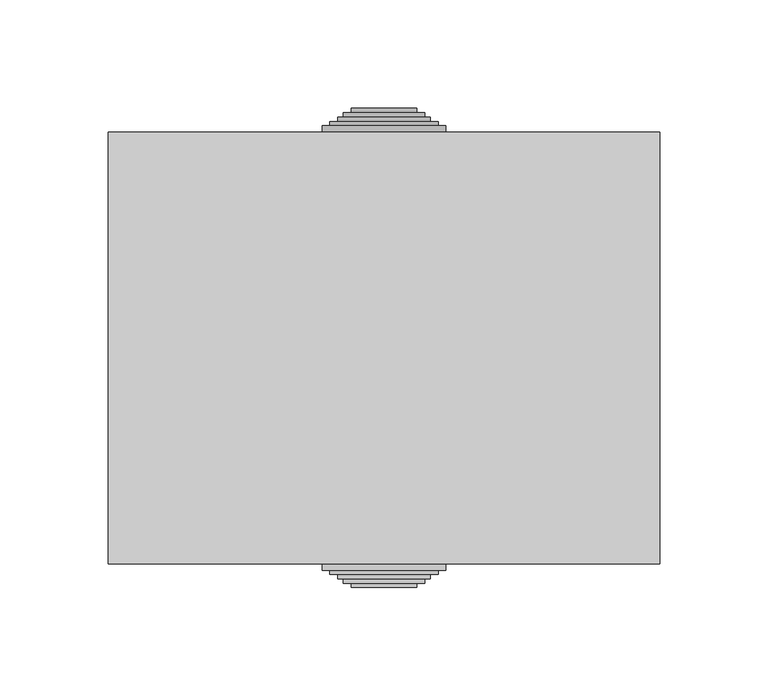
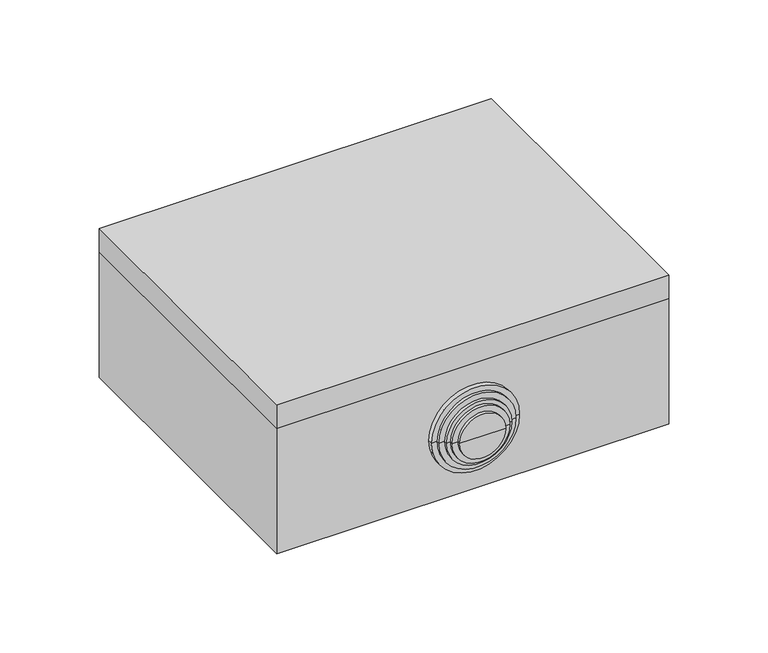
"""IFC4 building model written with IfcOpenShell, lengths in millimetres: cable carrier fitting geometry, КНС_КоробкаОтветвительнаяСКабельнымиВводами_2_IP55_DKC : с 2 кабельными вводами д.40мм, IP55, 240х190х90мм."""

from ifc_helpers import new_model, si_unit, frame, origin, place, context, project, spatial, polyline, circle_curve, faceted_brep, source, transform, mapped, element, save
from ifc_brep_helpers import plane_surface, cylinder_surface, revolved_surface, advanced_brep


def cable_carrier_fitting_5c50895f(model_context):
    return source(origin(), model_context, "Body", "SolidModel", [
        advanced_brep(
        [(25.0, -97.5, 43.0), (-25.0, -97.5, 43.0), (-28.5, -97.5, 43.0), (28.5, -97.5, 43.0), (25.0, -99.5, 43.0), (-25.0, -99.5, 43.0), (28.5, -99.5, 43.0), (-28.5, -99.5, 43.0), (28.5, -102.5, 43.0), (-28.5, -102.5, 43.0), (25.0, -102.5, 43.0), (-25.0, -102.5, 43.0), (25.0, -104.5, 43.0), (-25.0, -104.5, 43.0), (21.25, -104.5, 43.0), (-21.25, -104.5, 43.0), (21.25, -106.5, 43.0), (-21.25, -106.5, 43.0), (18.75, -106.5, 43.0), (-18.75, -106.5, 43.0), (18.75, -108.5, 43.0), (-18.75, -108.5, 43.0), (15.0, -108.5, 43.0), (-15.0, -108.5, 43.0), (15.0, -110.5, 43.0), (-15.0, -110.5, 43.0), (0.0, -110.5, 43.0), (25.0, -90.5, 43.0), (-25.0, -90.5, 43.0), (0.0, -90.5, 43.0), (28.5, -95.2491137, 43.0), (-28.5, -95.2491137, 43.0)],
        [
            (0, 1, circle_curve(frame((0.0, -97.5, 43.0), z_axis=(0.0, 1.0, 0.0), x_axis=(-1.0000000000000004, 0.0, 0.0)), 25.0)),
            (1, 2),
            (2, 3, circle_curve(frame((0.0, -97.5, 43.0), z_axis=(0.0, -1.0, 0.0), x_axis=(-1.0000000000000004, 0.0, 0.0)), 28.5)),
            (3, 0),
            (1, 0, circle_curve(frame((0.0, -97.5, 43.0), z_axis=(0.0, 1.0, 0.0), x_axis=(-1.0000000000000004, 0.0, 0.0)), 25.0)),
            (3, 2, circle_curve(frame((0.0, -97.5, 43.0), z_axis=(0.0, -1.0, 0.0), x_axis=(-1.0000000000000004, 0.0, 0.0)), 28.5)),
            (4, 5, circle_curve(frame((0.0, -99.5, 43.0), z_axis=(0.0, 1.0, 0.0), x_axis=(-1.0000000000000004, 0.0, 0.0)), 25.0)),
            (5, 1),
            (0, 4),
            (5, 4, circle_curve(frame((0.0, -99.5, 43.0), z_axis=(0.0, 1.0, 0.0), x_axis=(-1.0000000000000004, 0.0, 0.0)), 25.0)),
            (6, 7, circle_curve(frame((0.0, -99.5, 43.0), z_axis=(0.0, 1.0, 0.0), x_axis=(-1.0000000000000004, 0.0, 0.0)), 28.5)),
            (7, 5),
            (4, 6),
            (7, 6, circle_curve(frame((0.0, -99.5, 43.0), z_axis=(0.0, 1.0, 0.0), x_axis=(-1.0000000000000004, 0.0, 0.0)), 28.5)),
            (8, 9, circle_curve(frame((0.0, -102.5, 43.0), z_axis=(0.0, 1.0, 0.0), x_axis=(-1.0000000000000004, 0.0, 0.0)), 28.5)),
            (9, 7),
            (6, 8),
            (9, 8, circle_curve(frame((0.0, -102.5, 43.0), z_axis=(0.0, 1.0, 0.0), x_axis=(-1.0000000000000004, 0.0, 0.0)), 28.5)),
            (10, 11, circle_curve(frame((0.0, -102.5, 43.0), z_axis=(0.0, 1.0, 0.0), x_axis=(-1.0000000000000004, 0.0, 0.0)), 25.0)),
            (11, 9),
            (8, 10),
            (11, 10, circle_curve(frame((0.0, -102.5, 43.0), z_axis=(0.0, 1.0, 0.0), x_axis=(-1.0000000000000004, 0.0, 0.0)), 25.0)),
            (12, 13, circle_curve(frame((0.0, -104.5, 43.0), z_axis=(0.0, 1.0, 0.0), x_axis=(-1.0000000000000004, 0.0, 0.0)), 25.0)),
            (13, 11),
            (10, 12),
            (13, 12, circle_curve(frame((0.0, -104.5, 43.0), z_axis=(0.0, 1.0, 0.0), x_axis=(-1.0000000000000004, 0.0, 0.0)), 25.0)),
            (14, 15, circle_curve(frame((0.0, -104.5, 43.0), z_axis=(0.0, 1.0, 0.0), x_axis=(-1.0000000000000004, 0.0, 0.0)), 21.25)),
            (15, 13),
            (12, 14),
            (15, 14, circle_curve(frame((0.0, -104.5, 43.0), z_axis=(0.0, 1.0, 0.0), x_axis=(-1.0000000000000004, 0.0, 0.0)), 21.25)),
            (16, 17, circle_curve(frame((0.0, -106.5, 43.0), z_axis=(0.0, 1.0, 0.0), x_axis=(-1.0000000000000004, 0.0, 0.0)), 21.25)),
            (17, 15),
            (14, 16),
            (17, 16, circle_curve(frame((0.0, -106.5, 43.0), z_axis=(0.0, 1.0, 0.0), x_axis=(-1.0000000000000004, 0.0, 0.0)), 21.25)),
            (18, 19, circle_curve(frame((0.0, -106.5, 43.0), z_axis=(0.0, 1.0, 0.0), x_axis=(-1.0000000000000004, 0.0, 0.0)), 18.75)),
            (19, 17),
            (16, 18),
            (19, 18, circle_curve(frame((0.0, -106.5, 43.0), z_axis=(0.0, 1.0, 0.0), x_axis=(-1.0000000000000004, 0.0, 0.0)), 18.75)),
            (20, 21, circle_curve(frame((0.0, -108.5, 43.0), z_axis=(0.0, 1.0, 0.0), x_axis=(-1.0000000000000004, 0.0, 0.0)), 18.75)),
            (21, 19),
            (18, 20),
            (21, 20, circle_curve(frame((0.0, -108.5, 43.0), z_axis=(0.0, 1.0, 0.0), x_axis=(-1.0000000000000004, 0.0, 0.0)), 18.75)),
            (22, 23, circle_curve(frame((0.0, -108.5, 43.0), z_axis=(0.0, 1.0, 0.0), x_axis=(-1.0000000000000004, 0.0, 0.0)), 15.0)),
            (23, 21),
            (20, 22),
            (23, 22, circle_curve(frame((0.0, -108.5, 43.0), z_axis=(0.0, 1.0, 0.0), x_axis=(-1.0000000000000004, 0.0, 0.0)), 15.0)),
            (24, 25, circle_curve(frame((0.0, -110.5, 43.0), z_axis=(0.0, 1.0, 0.0), x_axis=(-1.0000000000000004, 0.0, 0.0)), 15.0)),
            (25, 23),
            (22, 24),
            (25, 24, circle_curve(frame((0.0, -110.5, 43.0), z_axis=(0.0, 1.0, 0.0), x_axis=(-1.0000000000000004, 0.0, 0.0)), 15.0)),
            (26, 25),
            (24, 26),
            (27, 28, circle_curve(frame((0.0, -90.5, 43.0), z_axis=(0.0, 1.0, 0.0), x_axis=(-1.0000000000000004, 0.0, 0.0)), 25.0)),
            (28, 29),
            (29, 27),
            (28, 27, circle_curve(frame((0.0, -90.5, 43.0), z_axis=(0.0, 1.0, 0.0), x_axis=(-1.0000000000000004, 0.0, 0.0)), 25.0)),
            (30, 31, circle_curve(frame((0.0, -95.2491137, 43.0), z_axis=(0.0, 1.0, 0.0), x_axis=(-1.0000000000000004, 0.0, 0.0)), 28.5)),
            (31, 28),
            (27, 30),
            (31, 30, circle_curve(frame((0.0, -95.2491137, 43.0), z_axis=(0.0, 1.0, 0.0), x_axis=(-1.0000000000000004, 0.0, 0.0)), 28.5)),
            (2, 31),
            (30, 3),
        ],
        [
            plane_surface(frame((0.0, -97.5, 43.0), z_axis=(0.0, -1.0, 0.0), x_axis=(-1.0, 0.0, 0.0))),
            cylinder_surface(frame((0.0, 1415.5, 43.0), z_axis=(0.0, -1.0000000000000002, 0.0), x_axis=(-1.0000000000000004, 0.0, 0.0)), 25.0),
            plane_surface(frame((0.0, -99.5, 43.0), z_axis=(0.0, 1.0, 0.0), x_axis=(-1.0, 0.0, 0.0))),
            cylinder_surface(frame((0.0, 1415.5, 43.0), z_axis=(0.0, -1.0000000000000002, 0.0), x_axis=(-1.0000000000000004, 0.0, 0.0)), 28.5),
            plane_surface(frame((0.0, -102.5, 43.0), z_axis=(0.0, -1.0, 0.0), x_axis=(-1.0, 0.0, 0.0))),
            plane_surface(frame((0.0, -104.5, 43.0), z_axis=(0.0, -1.0, 0.0), x_axis=(-1.0, 0.0, 0.0))),
            cylinder_surface(frame((0.0, 1415.5, 43.0), z_axis=(0.0, -1.0000000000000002, 0.0), x_axis=(-1.0000000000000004, 0.0, 0.0)), 21.25),
            plane_surface(frame((0.0, -106.5, 43.0), z_axis=(0.0, -1.0, 0.0), x_axis=(-1.0, 0.0, 0.0))),
            cylinder_surface(frame((0.0, 1415.5, 43.0), z_axis=(0.0, -1.0000000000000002, 0.0), x_axis=(-1.0000000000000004, 0.0, 0.0)), 18.75),
            plane_surface(frame((0.0, -108.5, 43.0), z_axis=(0.0, -1.0, 0.0), x_axis=(-1.0, 0.0, 0.0))),
            cylinder_surface(frame((0.0, 1415.5, 43.0), z_axis=(0.0, -1.0000000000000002, 0.0), x_axis=(-1.0000000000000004, 0.0, 0.0)), 15.0),
            plane_surface(frame((0.0, -110.5, 43.0), z_axis=(0.0, -1.0, 0.0), x_axis=(-1.0, 0.0, 0.0))),
            plane_surface(frame((0.0, -90.5, 43.0), z_axis=(0.0, 1.0, 0.0), x_axis=(-1.0, 0.0, 0.0))),
            revolved_surface(polyline([(-25.0, -90.5, 43.0), (-28.5, -95.2491137, 43.0)]), (0.0, 1415.5, 43.0), (0.0, -1.0000000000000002, 0.0)),
        ],
        [
            (0, [[1, 2, 3, 4]]),
            (0, [[5, -4, 6, -2]]),
            (1, [[7, 8, -1, 9]]),
            (1, [[10, -9, -5, -8]]),
            (2, [[11, 12, -7, 13]]),
            (2, [[14, -13, -10, -12]]),
            (3, [[15, 16, -11, 17]]),
            (3, [[18, -17, -14, -16]]),
            (4, [[19, 20, -15, 21]]),
            (4, [[22, -21, -18, -20]]),
            (1, [[23, 24, -19, 25]]),
            (1, [[26, -25, -22, -24]]),
            (5, [[27, 28, -23, 29]]),
            (5, [[30, -29, -26, -28]]),
            (6, [[31, 32, -27, 33]]),
            (6, [[34, -33, -30, -32]]),
            (7, [[35, 36, -31, 37]]),
            (7, [[38, -37, -34, -36]]),
            (8, [[39, 40, -35, 41]]),
            (8, [[42, -41, -38, -40]]),
            (9, [[43, 44, -39, 45]]),
            (9, [[46, -45, -42, -44]]),
            (10, [[47, 48, -43, 49]]),
            (10, [[50, -49, -46, -48]]),
            (11, [[51, -47, 52]]),
            (11, [[-52, -50, -51]]),
            (12, [[53, 54, 55]]),
            (12, [[56, -55, -54]]),
            (13, [[57, 58, -53, 59]]),
            (13, [[60, -59, -56, -58]]),
            (3, [[-3, 61, -57, 62]]),
            (3, [[-6, -62, -60, -61]]),
        ],
    ),
        advanced_brep(
        [(-25.0, 97.5, 43.0), (25.0, 97.5, 43.0), (28.5, 97.5, 43.0), (-28.5, 97.5, 43.0), (-25.0, 99.5, 43.0), (25.0, 99.5, 43.0), (-28.5, 99.5, 43.0), (28.5, 99.5, 43.0), (-28.5, 102.5, 43.0), (28.5, 102.5, 43.0), (-25.0, 102.5, 43.0), (25.0, 102.5, 43.0), (-25.0, 104.5, 43.0), (25.0, 104.5, 43.0), (-21.25, 104.5, 43.0), (21.25, 104.5, 43.0), (-21.25, 106.5, 43.0), (21.25, 106.5, 43.0), (-18.75, 106.5, 43.0), (18.75, 106.5, 43.0), (-18.75, 108.5, 43.0), (18.75, 108.5, 43.0), (-15.0, 108.5, 43.0), (15.0, 108.5, 43.0), (-15.0, 110.5, 43.0), (15.0, 110.5, 43.0), (0.0, 110.5, 43.0), (-25.0, 90.5, 43.0), (25.0, 90.5, 43.0), (0.0, 90.5, 43.0), (-28.5, 95.2491137, 43.0), (28.5, 95.2491137, 43.0)],
        [
            (0, 1, circle_curve(frame((0.0, 97.5, 43.0), z_axis=(0.0, -1.0, 0.0), x_axis=(1.0, 0.0, 0.0)), 25.0)),
            (1, 2),
            (2, 3, circle_curve(frame((0.0, 97.5, 43.0), z_axis=(0.0, 1.0, 0.0), x_axis=(1.0, 0.0, 0.0)), 28.5)),
            (3, 0),
            (1, 0, circle_curve(frame((0.0, 97.5, 43.0), z_axis=(0.0, -1.0, 0.0), x_axis=(1.0, 0.0, 0.0)), 25.0)),
            (3, 2, circle_curve(frame((0.0, 97.5, 43.0), z_axis=(0.0, 1.0, 0.0), x_axis=(1.0, 0.0, 0.0)), 28.5)),
            (4, 5, circle_curve(frame((0.0, 99.5, 43.0), z_axis=(0.0, -1.0, 0.0), x_axis=(1.0, 0.0, 0.0)), 25.0)),
            (5, 1),
            (0, 4),
            (5, 4, circle_curve(frame((0.0, 99.5, 43.0), z_axis=(0.0, -1.0, 0.0), x_axis=(1.0, 0.0, 0.0)), 25.0)),
            (6, 7, circle_curve(frame((0.0, 99.5, 43.0), z_axis=(0.0, -1.0, 0.0), x_axis=(1.0, 0.0, 0.0)), 28.5)),
            (7, 5),
            (4, 6),
            (7, 6, circle_curve(frame((0.0, 99.5, 43.0), z_axis=(0.0, -1.0, 0.0), x_axis=(1.0, 0.0, 0.0)), 28.5)),
            (8, 9, circle_curve(frame((0.0, 102.5, 43.0), z_axis=(0.0, -1.0, 0.0), x_axis=(1.0, 0.0, 0.0)), 28.5)),
            (9, 7),
            (6, 8),
            (9, 8, circle_curve(frame((0.0, 102.5, 43.0), z_axis=(0.0, -1.0, 0.0), x_axis=(1.0, 0.0, 0.0)), 28.5)),
            (10, 11, circle_curve(frame((0.0, 102.5, 43.0), z_axis=(0.0, -1.0, 0.0), x_axis=(1.0, 0.0, 0.0)), 25.0)),
            (11, 9),
            (8, 10),
            (11, 10, circle_curve(frame((0.0, 102.5, 43.0), z_axis=(0.0, -1.0, 0.0), x_axis=(1.0, 0.0, 0.0)), 25.0)),
            (12, 13, circle_curve(frame((0.0, 104.5, 43.0), z_axis=(0.0, -1.0, 0.0), x_axis=(1.0, 0.0, 0.0)), 25.0)),
            (13, 11),
            (10, 12),
            (13, 12, circle_curve(frame((0.0, 104.5, 43.0), z_axis=(0.0, -1.0, 0.0), x_axis=(1.0, 0.0, 0.0)), 25.0)),
            (14, 15, circle_curve(frame((0.0, 104.5, 43.0), z_axis=(0.0, -1.0, 0.0), x_axis=(1.0, 0.0, 0.0)), 21.25)),
            (15, 13),
            (12, 14),
            (15, 14, circle_curve(frame((0.0, 104.5, 43.0), z_axis=(0.0, -1.0, 0.0), x_axis=(1.0, 0.0, 0.0)), 21.25)),
            (16, 17, circle_curve(frame((0.0, 106.5, 43.0), z_axis=(0.0, -1.0, 0.0), x_axis=(1.0, 0.0, 0.0)), 21.25)),
            (17, 15),
            (14, 16),
            (17, 16, circle_curve(frame((0.0, 106.5, 43.0), z_axis=(0.0, -1.0, 0.0), x_axis=(1.0, 0.0, 0.0)), 21.25)),
            (18, 19, circle_curve(frame((0.0, 106.5, 43.0), z_axis=(0.0, -1.0, 0.0), x_axis=(1.0, 0.0, 0.0)), 18.75)),
            (19, 17),
            (16, 18),
            (19, 18, circle_curve(frame((0.0, 106.5, 43.0), z_axis=(0.0, -1.0, 0.0), x_axis=(1.0, 0.0, 0.0)), 18.75)),
            (20, 21, circle_curve(frame((0.0, 108.5, 43.0), z_axis=(0.0, -1.0, 0.0), x_axis=(1.0, 0.0, 0.0)), 18.75)),
            (21, 19),
            (18, 20),
            (21, 20, circle_curve(frame((0.0, 108.5, 43.0), z_axis=(0.0, -1.0, 0.0), x_axis=(1.0, 0.0, 0.0)), 18.75)),
            (22, 23, circle_curve(frame((0.0, 108.5, 43.0), z_axis=(0.0, -1.0, 0.0), x_axis=(1.0, 0.0, 0.0)), 15.0)),
            (23, 21),
            (20, 22),
            (23, 22, circle_curve(frame((0.0, 108.5, 43.0), z_axis=(0.0, -1.0, 0.0), x_axis=(1.0, 0.0, 0.0)), 15.0)),
            (24, 25, circle_curve(frame((0.0, 110.5, 43.0), z_axis=(0.0, -1.0, 0.0), x_axis=(1.0, 0.0, 0.0)), 15.0)),
            (25, 23),
            (22, 24),
            (25, 24, circle_curve(frame((0.0, 110.5, 43.0), z_axis=(0.0, -1.0, 0.0), x_axis=(1.0, 0.0, 0.0)), 15.0)),
            (26, 25),
            (24, 26),
            (27, 28, circle_curve(frame((0.0, 90.5, 43.0), z_axis=(0.0, -1.0, 0.0), x_axis=(1.0, 0.0, 0.0)), 25.0)),
            (28, 29),
            (29, 27),
            (28, 27, circle_curve(frame((0.0, 90.5, 43.0), z_axis=(0.0, -1.0, 0.0), x_axis=(1.0, 0.0, 0.0)), 25.0)),
            (30, 31, circle_curve(frame((0.0, 95.2491137, 43.0), z_axis=(0.0, -1.0, 0.0), x_axis=(1.0, 0.0, 0.0)), 28.5)),
            (31, 28),
            (27, 30),
            (31, 30, circle_curve(frame((0.0, 95.2491137, 43.0), z_axis=(0.0, -1.0, 0.0), x_axis=(1.0, 0.0, 0.0)), 28.5)),
            (2, 31),
            (30, 3),
        ],
        [
            plane_surface(frame((0.0, 97.5, 43.0), z_axis=(0.0, 1.0, 0.0), x_axis=(1.0, 0.0, 0.0))),
            cylinder_surface(frame((0.0, -1415.5, 43.0), z_axis=(0.0, 1.0, 0.0), x_axis=(1.0, 0.0, 0.0)), 25.0),
            plane_surface(frame((0.0, 99.5, 43.0), z_axis=(0.0, -1.0, 0.0), x_axis=(1.0, 0.0, 0.0))),
            cylinder_surface(frame((0.0, -1415.5, 43.0), z_axis=(0.0, 1.0, 0.0), x_axis=(1.0, 0.0, 0.0)), 28.5),
            plane_surface(frame((0.0, 102.5, 43.0), z_axis=(0.0, 1.0, 0.0), x_axis=(1.0, 0.0, 0.0))),
            plane_surface(frame((0.0, 104.5, 43.0), z_axis=(0.0, 1.0, 0.0), x_axis=(1.0, 0.0, 0.0))),
            cylinder_surface(frame((0.0, -1415.5, 43.0), z_axis=(0.0, 1.0, 0.0), x_axis=(1.0, 0.0, 0.0)), 21.25),
            plane_surface(frame((0.0, 106.5, 43.0), z_axis=(0.0, 1.0, 0.0), x_axis=(1.0, 0.0, 0.0))),
            cylinder_surface(frame((0.0, -1415.5, 43.0), z_axis=(0.0, 1.0, 0.0), x_axis=(1.0, 0.0, 0.0)), 18.75),
            plane_surface(frame((0.0, 108.5, 43.0), z_axis=(0.0, 1.0, 0.0), x_axis=(1.0, 0.0, 0.0))),
            cylinder_surface(frame((0.0, -1415.5, 43.0), z_axis=(0.0, 1.0, 0.0), x_axis=(1.0, 0.0, 0.0)), 15.0),
            plane_surface(frame((0.0, 110.5, 43.0), z_axis=(0.0, 1.0, 0.0), x_axis=(1.0, 0.0, 0.0))),
            plane_surface(frame((0.0, 90.5, 43.0), z_axis=(0.0, -1.0, 0.0), x_axis=(1.0, 0.0, 0.0))),
            revolved_surface(polyline([(25.0, 90.5, 43.0), (28.5, 95.2491137, 43.0)]), (0.0, -1415.5, 43.0), (0.0, 1.0, 0.0)),
        ],
        [
            (0, [[1, 2, 3, 4]]),
            (0, [[5, -4, 6, -2]]),
            (1, [[7, 8, -1, 9]]),
            (1, [[10, -9, -5, -8]]),
            (2, [[11, 12, -7, 13]]),
            (2, [[14, -13, -10, -12]]),
            (3, [[15, 16, -11, 17]]),
            (3, [[18, -17, -14, -16]]),
            (4, [[19, 20, -15, 21]]),
            (4, [[22, -21, -18, -20]]),
            (1, [[23, 24, -19, 25]]),
            (1, [[26, -25, -22, -24]]),
            (5, [[27, 28, -23, 29]]),
            (5, [[30, -29, -26, -28]]),
            (6, [[31, 32, -27, 33]]),
            (6, [[34, -33, -30, -32]]),
            (7, [[35, 36, -31, 37]]),
            (7, [[38, -37, -34, -36]]),
            (8, [[39, 40, -35, 41]]),
            (8, [[42, -41, -38, -40]]),
            (9, [[43, 44, -39, 45]]),
            (9, [[46, -45, -42, -44]]),
            (10, [[47, 48, -43, 49]]),
            (10, [[50, -49, -46, -48]]),
            (11, [[51, -47, 52]]),
            (11, [[-52, -50, -51]]),
            (12, [[53, 54, 55]]),
            (12, [[56, -55, -54]]),
            (13, [[57, 58, -53, 59]]),
            (13, [[60, -59, -56, -58]]),
            (3, [[-3, 61, -57, 62]]),
            (3, [[-6, -62, -60, -61]]),
        ],
    ),
        faceted_brep([(127.0, 99.5, 102.0), (-127.0, 99.5, 102.0), (-127.0, -99.5, 102.0), (127.0, -99.5, 102.0), (-125.0, -97.5, 100.0), (-125.0, 97.5, 100.0), (125.0, 97.5, 100.0), (125.0, -97.5, 100.0), (127.0, 99.5, 86.0), (127.0, -99.5, 86.0), (-127.0, -99.5, 86.0), (-127.0, 99.5, 86.0), (-125.0, -97.5, 86.0), (125.0, -97.5, 86.0), (125.0, 97.5, 86.0), (-125.0, 97.5, 86.0)], [[[0, 1, 2, 3]], [[4, 5, 6, 7]], [[8, 9, 10, 11], [12, 13, 14, 15]], [[1, 0, 8, 11]], [[2, 1, 11, 10]], [[3, 2, 10, 9]], [[0, 3, 9, 8]], [[12, 15, 5, 4]], [[15, 14, 6, 5]], [[14, 13, 7, 6]], [[13, 12, 4, 7]]]),
        faceted_brep([(-125.0, -97.5, 2.0), (125.0, -97.5, 2.0), (125.0, 97.5, 2.0), (-125.0, 97.5, 2.0), (127.0, 99.5, 0.0), (127.0, -99.5, 0.0), (-127.0, -99.5, 0.0), (-127.0, 99.5, 0.0), (127.0, 99.5, 86.0), (-127.0, 99.5, 86.0), (-127.0, -99.5, 86.0), (127.0, -99.5, 86.0), (125.0, -97.5, 86.0), (-125.0, -97.5, 86.0), (-125.0, 97.5, 86.0), (125.0, 97.5, 86.0)], [[[0, 1, 2, 3]], [[4, 5, 6, 7]], [[8, 9, 10, 11], [12, 13, 14, 15]], [[9, 8, 4, 7]], [[10, 9, 7, 6]], [[11, 10, 6, 5]], [[8, 11, 5, 4]], [[13, 12, 1, 0]], [[14, 13, 0, 3]], [[15, 14, 3, 2]], [[12, 15, 2, 1]]]),
    ])


if __name__ == "__main__":
    model = new_model("IFC4")
    model_context = context("Model", 3, world=origin())
    ifc_project = project(units=[si_unit("LENGTHUNIT", "METRE", prefix="MILLI")], contexts=[model_context])
    site = spatial("IfcSite", under=ifc_project)
    building = spatial("IfcBuilding", under=site)
    placement = place(None, origin())
    cable_carrier_fitting_shape = cable_carrier_fitting_5c50895f(model_context)
    element("IfcCableCarrierFitting", 1, ObjectType="КНС_КоробкаОтветвительнаяСКабельнымиВводами_2_IP55_DKC : с 2 кабельными вводами д.40мм, IP55, 240х190х90мм", at=placement, inside=building, context=model_context, shape_type="MappedRepresentation", body=[
        mapped(cable_carrier_fitting_shape, transform((0.0, 0.0, 0.0), x_axis=(1.0, 0.0, 0.0), y_axis=(0.0, 1.0, 0.0), z_axis=(0.0, 0.0, 1.0))),
    ])
    save(model, "model.ifc")
